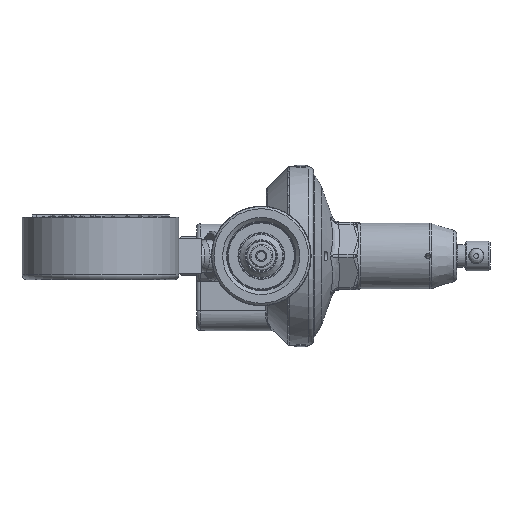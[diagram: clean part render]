
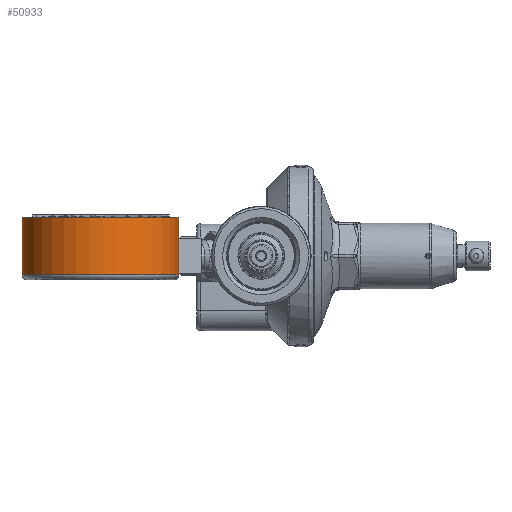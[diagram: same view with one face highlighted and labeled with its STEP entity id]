
A CAD part, left-side view. The second image highlights one B-rep face of the part: STEP entity #50933.
In plain terms, the highlighted cylindrical face has radius 31.5 mm (diameter 63 mm), a full revolution.
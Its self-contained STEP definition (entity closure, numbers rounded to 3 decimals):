
#3172=LINE('',#94151,#6532);
#3174=LINE('',#94155,#6534);
#6532=VECTOR('',#66378,10.);
#6534=VECTOR('',#66382,10.);
#11150=FACE_BOUND('',#16850,.T.);
#11151=FACE_BOUND('',#16851,.T.);
#13469=FACE_OUTER_BOUND('',#16849,.T.);
#16849=EDGE_LOOP('',(#42027));
#16850=EDGE_LOOP('',(#42028,#42029,#42030,#42031));
#16851=EDGE_LOOP('',(#42032));
#19716=CIRCLE('',#55639,31.5);
#19717=CIRCLE('',#55643,31.5);
#19722=CIRCLE('',#55652,31.5);
#19723=CIRCLE('',#55653,31.5);
#23347=VERTEX_POINT('',#94144);
#23348=VERTEX_POINT('',#94145);
#23349=VERTEX_POINT('',#94150);
#23350=VERTEX_POINT('',#94154);
#23355=VERTEX_POINT('',#94171);
#23356=VERTEX_POINT('',#94173);
#29768=EDGE_CURVE('',#23347,#23348,#19716,.T.);
#29771=EDGE_CURVE('',#23349,#23347,#3172,.T.);
#29773=EDGE_CURVE('',#23348,#23350,#3174,.T.);
#29775=EDGE_CURVE('',#23350,#23349,#19717,.T.);
#29780=EDGE_CURVE('',#23355,#23355,#19722,.T.);
#29781=EDGE_CURVE('',#23356,#23356,#19723,.T.);
#42027=ORIENTED_EDGE('',*,*,#29780,.T.);
#42028=ORIENTED_EDGE('',*,*,#29773,.T.);
#42029=ORIENTED_EDGE('',*,*,#29775,.T.);
#42030=ORIENTED_EDGE('',*,*,#29771,.T.);
#42031=ORIENTED_EDGE('',*,*,#29768,.T.);
#42032=ORIENTED_EDGE('',*,*,#29781,.F.);
#45856=CYLINDRICAL_SURFACE('',#55651,31.5);
#50933=ADVANCED_FACE('',(#13469,#11150,#11151),#45856,.T.);
#55639=AXIS2_PLACEMENT_3D('',#94146,#66372,#66373);
#55643=AXIS2_PLACEMENT_3D('',#94158,#66386,#66387);
#55651=AXIS2_PLACEMENT_3D('',#94170,#66402,#66403);
#55652=AXIS2_PLACEMENT_3D('',#94172,#66404,#66405);
#55653=AXIS2_PLACEMENT_3D('',#94174,#66406,#66407);
#66372=DIRECTION('center_axis',(0.,0.,
-1.));
#66373=DIRECTION('ref_axis',(-0.927,-0.375,0.));
#66378=DIRECTION('',(0.,0.,-1.));
#66382=DIRECTION('',(0.,0.,1.));
#66386=DIRECTION('center_axis',(0.,0.,
1.));
#66387=DIRECTION('ref_axis',(-0.927,-0.375,0.));
#66402=DIRECTION('center_axis',(0.,0.,
1.));
#66403=DIRECTION('ref_axis',(-0.927,-0.375,0.));
#66404=DIRECTION('center_axis',(0.,0.,
-1.));
#66405=DIRECTION('ref_axis',(-0.927,-0.375,0.));
#66406=DIRECTION('center_axis',(0.,0.,
-1.));
#66407=DIRECTION('ref_axis',(-0.927,-0.375,0.));
#94144=CARTESIAN_POINT('',(-26.836,59.78,-7.));
#94145=CARTESIAN_POINT('',(-39.817,54.536,-7.));
#94146=CARTESIAN_POINT('Origin',(-44.831,85.634,-7.));
#94150=CARTESIAN_POINT('',(-26.836,59.78,7.));
#94151=CARTESIAN_POINT('',(-26.836,59.78,3.));
#94154=CARTESIAN_POINT('',(-39.817,54.536,7.));
#94155=CARTESIAN_POINT('',(-39.817,54.536,3.));
#94158=CARTESIAN_POINT('Origin',(-44.831,85.634,7.));
#94170=CARTESIAN_POINT('Origin',(-44.831,85.634,3.));
#94171=CARTESIAN_POINT('',(-15.625,97.434,15.5));
#94172=CARTESIAN_POINT('Origin',(-44.831,85.634,15.5));
#94173=CARTESIAN_POINT('',(-15.625,97.434,-7.5));
#94174=CARTESIAN_POINT('Origin',(-44.831,85.634,-7.5));
